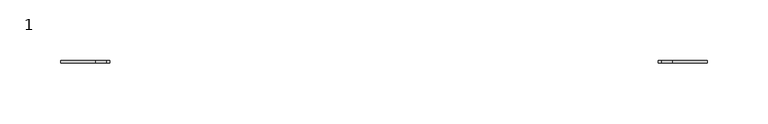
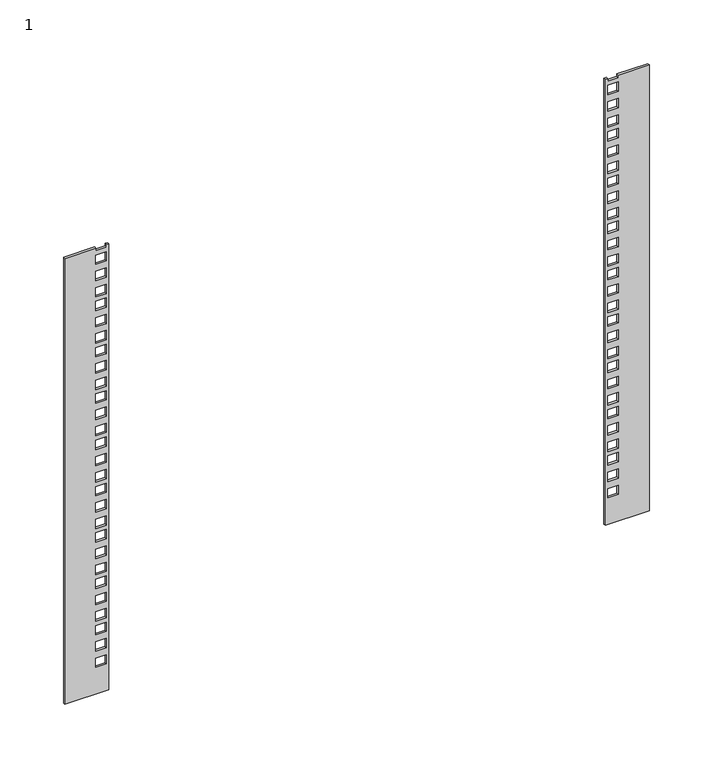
"""IFC4 building model written with IfcOpenShell, lengths in millimetres: proxy geometry, 1 : 9U 600мм стеклянная дверь."""

from ifc_helpers import new_model, si_unit, frame, origin, place, context, project, spatial, polyline, outline, extrude, source, transform, mapped, element, save


def proxy_1_e45873d3(model_context):
    return source(origin(), model_context, "Body", "SweptSolid", [
        extrude(outline(polyline([(20.4675, 225.3), (20.4675, 265.3), (448.4675, 265.3), (448.4675, 237.05), (446.1175, 237.05), (446.1175, 227.55), (448.4675, 227.55), (448.4675, 225.3), (20.4675, 225.3)]), holes=[polyline([(55.0175, 227.55), (55.0175, 237.05), (46.0675, 237.05), (46.0675, 227.55), (55.0175, 227.55)]), polyline([(70.6675, 227.55), (70.6675, 237.05), (61.7175, 237.05), (61.7175, 227.55), (70.6675, 227.55)]), polyline([(86.3175, 227.55), (86.3175, 237.05), (77.3675, 237.05), (77.3675, 227.55), (86.3175, 227.55)]), polyline([(99.4675, 237.05), (90.5175, 237.05), (90.5175, 227.55), (99.4675, 227.55), (99.4675, 237.05)]), polyline([(115.1175, 237.05), (106.1675, 237.05), (106.1675, 227.55), (115.1175, 227.55), (115.1175, 237.05)]), polyline([(130.7675, 237.05), (121.8175, 237.05), (121.8175, 227.55), (130.7675, 227.55), (130.7675, 237.05)]), polyline([(143.9175, 237.05), (134.9675, 237.05), (134.9675, 227.55), (143.9175, 227.55), (143.9175, 237.05)]), polyline([(159.5675, 237.05), (150.6175, 237.05), (150.6175, 227.55), (159.5675, 227.55), (159.5675, 237.05)]), polyline([(175.2175, 237.05), (166.2675, 237.05), (166.2675, 227.55), (175.2175, 227.55), (175.2175, 237.05)]), polyline([(188.3675, 237.05), (179.4175, 237.05), (179.4175, 227.55), (188.3675, 227.55), (188.3675, 237.05)]), polyline([(204.0175, 237.05), (195.0675, 237.05), (195.0675, 227.55), (204.0175, 227.55), (204.0175, 237.05)]), polyline([(219.6675, 237.05), (210.7175, 237.05), (210.7175, 227.55), (219.6675, 227.55), (219.6675, 237.05)]), polyline([(232.8175, 237.05), (223.8675, 237.05), (223.8675, 227.55), (232.8175, 227.55), (232.8175, 237.05)]), polyline([(248.4675, 237.05), (239.5175, 237.05), (239.5175, 227.55), (248.4675, 227.55), (248.4675, 237.05)]), polyline([(264.1175, 237.05), (255.1675, 237.05), (255.1675, 227.55), (264.1175, 227.55), (264.1175, 237.05)]), polyline([(277.2675, 237.05), (268.3175, 237.05), (268.3175, 227.55), (277.2675, 227.55), (277.2675, 237.05)]), polyline([(292.9175, 237.05), (283.9675, 237.05), (283.9675, 227.55), (292.9175, 227.55), (292.9175, 237.05)]), polyline([(308.5675, 237.05), (299.6175, 237.05), (299.6175, 227.55), (308.5675, 227.55), (308.5675, 237.05)]), polyline([(321.7175, 237.05), (312.7675, 237.05), (312.7675, 227.55), (321.7175, 227.55), (321.7175, 237.05)]), polyline([(337.3675, 237.05), (328.4175, 237.05), (328.4175, 227.55), (337.3675, 227.55), (337.3675, 237.05)]), polyline([(353.0175, 237.05), (344.0675, 237.05), (344.0675, 227.55), (353.0175, 227.55), (353.0175, 237.05)]), polyline([(366.1675, 237.05), (357.2175, 237.05), (357.2175, 227.55), (366.1675, 227.55), (366.1675, 237.05)]), polyline([(381.8175, 237.05), (372.8675, 237.05), (372.8675, 227.55), (381.8175, 227.55), (381.8175, 237.05)]), polyline([(397.4675, 237.05), (388.5175, 237.05), (388.5175, 227.55), (397.4675, 227.55), (397.4675, 237.05)]), polyline([(410.6175, 237.05), (401.6675, 237.05), (401.6675, 227.55), (410.6175, 227.55), (410.6175, 237.05)]), polyline([(426.2675, 237.05), (417.3175, 237.05), (417.3175, 227.55), (426.2675, 227.55), (426.2675, 237.05)]), polyline([(441.9175, 237.05), (432.9675, 237.05), (432.9675, 227.55), (441.9175, 227.55), (441.9175, 237.05)])]), frame((0.0, -254.6777479, 0.0), z_axis=(0.0, 1.0, 0.0), x_axis=(0.0, 0.0, 1.0)), (0.0, 0.0, 1.0), 2.0),
        extrude(outline(polyline([(20.4675, -265.7), (20.4675, -225.7), (448.4675, -225.7), (448.4675, -227.95), (446.1175, -227.95), (446.1175, -237.45), (448.4675, -237.45), (448.4675, -265.7), (20.4675, -265.7)]), holes=[polyline([(55.0175, -237.45), (55.0175, -227.95), (46.0675, -227.95), (46.0675, -237.45), (55.0175, -237.45)]), polyline([(70.6675, -237.45), (70.6675, -227.95), (61.7175, -227.95), (61.7175, -237.45), (70.6675, -237.45)]), polyline([(86.3175, -237.45), (86.3175, -227.95), (77.3675, -227.95), (77.3675, -237.45), (86.3175, -237.45)]), polyline([(90.5175, -237.45), (99.4675, -237.45), (99.4675, -227.95), (90.5175, -227.95), (90.5175, -237.45)]), polyline([(106.1675, -237.45), (115.1175, -237.45), (115.1175, -227.95), (106.1675, -227.95), (106.1675, -237.45)]), polyline([(121.8175, -237.45), (130.7675, -237.45), (130.7675, -227.95), (121.8175, -227.95), (121.8175, -237.45)]), polyline([(134.9675, -237.45), (143.9175, -237.45), (143.9175, -227.95), (134.9675, -227.95), (134.9675, -237.45)]), polyline([(150.6175, -237.45), (159.5675, -237.45), (159.5675, -227.95), (150.6175, -227.95), (150.6175, -237.45)]), polyline([(166.2675, -237.45), (175.2175, -237.45), (175.2175, -227.95), (166.2675, -227.95), (166.2675, -237.45)]), polyline([(179.4175, -237.45), (188.3675, -237.45), (188.3675, -227.95), (179.4175, -227.95), (179.4175, -237.45)]), polyline([(195.0675, -237.45), (204.0175, -237.45), (204.0175, -227.95), (195.0675, -227.95), (195.0675, -237.45)]), polyline([(210.7175, -237.45), (219.6675, -237.45), (219.6675, -227.95), (210.7175, -227.95), (210.7175, -237.45)]), polyline([(223.8675, -237.45), (232.8175, -237.45), (232.8175, -227.95), (223.8675, -227.95), (223.8675, -237.45)]), polyline([(239.5175, -237.45), (248.4675, -237.45), (248.4675, -227.95), (239.5175, -227.95), (239.5175, -237.45)]), polyline([(255.1675, -237.45), (264.1175, -237.45), (264.1175, -227.95), (255.1675, -227.95), (255.1675, -237.45)]), polyline([(268.3175, -237.45), (277.2675, -237.45), (277.2675, -227.95), (268.3175, -227.95), (268.3175, -237.45)]), polyline([(283.9675, -237.45), (292.9175, -237.45), (292.9175, -227.95), (283.9675, -227.95), (283.9675, -237.45)]), polyline([(299.6175, -237.45), (308.5675, -237.45), (308.5675, -227.95), (299.6175, -227.95), (299.6175, -237.45)]), polyline([(312.7675, -237.45), (321.7175, -237.45), (321.7175, -227.95), (312.7675, -227.95), (312.7675, -237.45)]), polyline([(328.4175, -237.45), (337.3675, -237.45), (337.3675, -227.95), (328.4175, -227.95), (328.4175, -237.45)]), polyline([(344.0675, -237.45), (353.0175, -237.45), (353.0175, -227.95), (344.0675, -227.95), (344.0675, -237.45)]), polyline([(357.2175, -237.45), (366.1675, -237.45), (366.1675, -227.95), (357.2175, -227.95), (357.2175, -237.45)]), polyline([(372.8675, -237.45), (381.8175, -237.45), (381.8175, -227.95), (372.8675, -227.95), (372.8675, -237.45)]), polyline([(388.5175, -237.45), (397.4675, -237.45), (397.4675, -227.95), (388.5175, -227.95), (388.5175, -237.45)]), polyline([(401.6675, -237.45), (410.6175, -237.45), (410.6175, -227.95), (401.6675, -227.95), (401.6675, -237.45)]), polyline([(417.3175, -237.45), (426.2675, -237.45), (426.2675, -227.95), (417.3175, -227.95), (417.3175, -237.45)]), polyline([(432.9675, -237.45), (441.9175, -237.45), (441.9175, -227.95), (432.9675, -227.95), (432.9675, -237.45)])]), frame((0.0, -254.6777479, 0.0), z_axis=(0.0, 1.0, 0.0), x_axis=(0.0, 0.0, 1.0)), (0.0, 0.0, 1.0), 2.0),
    ])


if __name__ == "__main__":
    model = new_model("IFC4")
    model_context = context("Model", 3, world=origin())
    ifc_project = project(units=[si_unit("LENGTHUNIT", "METRE", prefix="MILLI")], contexts=[model_context])
    site = spatial("IfcSite", under=ifc_project)
    building = spatial("IfcBuilding", under=site)
    placement = place(None, origin())
    proxy_1_shape = proxy_1_e45873d3(model_context)
    element("IfcBuildingElementProxy", 1, Name="1 : 9U 600мм стеклянная дверь", ObjectType="1 : 9U 600мм стеклянная дверь", at=placement, inside=building, context=model_context, shape_type="MappedRepresentation", body=[
        mapped(proxy_1_shape, transform((0.0, 0.0, 0.0), x_axis=(1.0, 0.0, 0.0), y_axis=(0.0, 1.0, 0.0), z_axis=(0.0, 0.0, 1.0))),
    ])
    save(model, "model.ifc")
